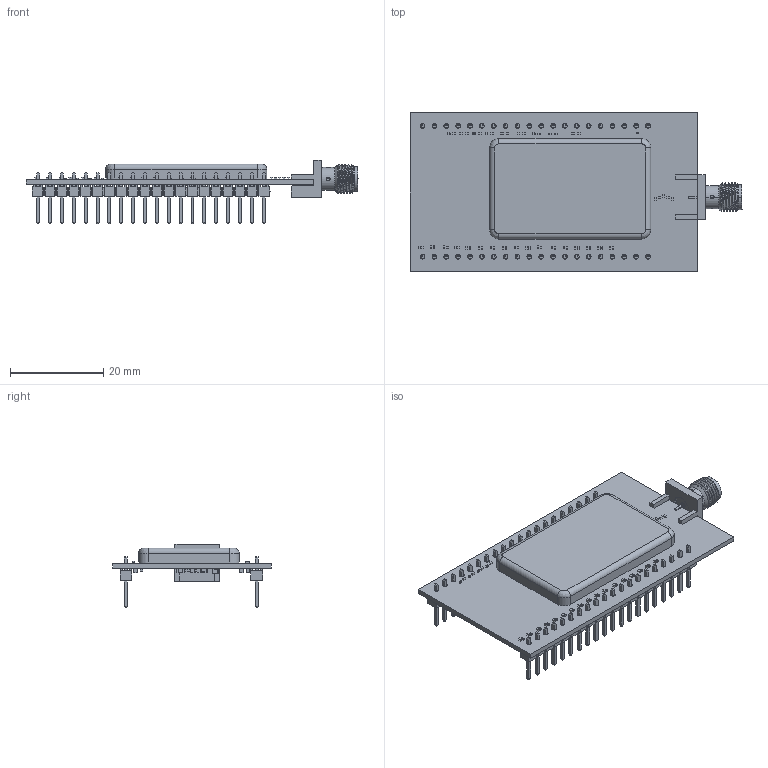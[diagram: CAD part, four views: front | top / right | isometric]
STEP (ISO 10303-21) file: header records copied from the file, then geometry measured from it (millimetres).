
FILE_DESCRIPTION(('Open CASCADE Model'),'2;1');
FILE_NAME('Open CASCADE Shape Model','2022-09-01T08:32:07',('Author'),( 'Open CASCADE'),'Open CASCADE STEP processor 6.8','Open CASCADE 6.8' ,'Unknown');
FILE_SCHEMA(('AUTOMOTIVE_DESIGN { 1 0 10303 214 1 1 1 1 }'));
Length unit declared in the file: millimetre
Products named in the file (172): PCB; Board; Open CASCADE STEP translator 6.8 5.1.1; C229; 6279824160; Extruded; R228; User_Library-Chip_Cap_MLCC_0201_(0603); R227; R226; R225; R224; R223; R222; R221; R220; R219; R218; R217; R216; R215; R214; R213; R212; R208; R207; R206; R205; R204; R203; R202; R201; C228; 6279823680; C227; C226; C225; C224; C223; C222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
Assembly tree (287 placements, depth 4):
  PCB
    Board
      Open CASCADE STEP translator 6.8 5.1.1
    C229
      6279824160
        Extruded
    R228
      User_Library-Chip_Cap_MLCC_0201_(0603)
    R227
      User_Library-Chip_Cap_MLCC_0201_(0603)
    R226
      User_Library-Chip_Cap_MLCC_0201_(0603)
    R225
      User_Library-Chip_Cap_MLCC_0201_(0603)
    R224
      User_Library-Chip_Cap_MLCC_0201_(0603)
    R223
      User_Library-Chip_Cap_MLCC_0201_(0603)
    R222
      User_Library-Chip_Cap_MLCC_0201_(0603)
    R221
      User_Library-Chip_Cap_MLCC_0201_(0603)
    R220
      User_Library-Chip_Cap_MLCC_0201_(0603)
    R219
      User_Library-Chip_Cap_MLCC_0201_(0603)
    R218
      User_Library-Chip_Cap_MLCC_0201_(0603)
    R217
      User_Library-Chip_Cap_MLCC_0201_(0603)
    R216
      User_Library-Chip_Cap_MLCC_0201_(0603)
    R215
      User_Library-Chip_Cap_MLCC_0201_(0603)
    R214
      User_Library-Chip_Cap_MLCC_0201_(0603)
    R213
      User_Library-Chip_Cap_MLCC_0201_(0603)
    R212
      User_Library-Chip_Cap_MLCC_0201_(0603)
    R208
      User_Library-Chip_Cap_MLCC_0201_(0603)
    R207
      User_Library-Chip_Cap_MLCC_0201_(0603)
    R206
      User_Library-Chip_Cap_MLCC_0201_(0603)
    R205
      User_Library-Chip_Cap_MLCC_0201_(0603)
    R204
      User_Library-Chip_Cap_MLCC_0201_(0603)
    R203
      User_Library-Chip_Cap_MLCC_0201_(0603)
    R202
      User_Library-Chip_Cap_MLCC_0201_(0603)
    R201
      User_Library-Chip_Cap_MLCC_0201_(0603)
    C228
      6279823680
        Extruded
    C227
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Bounding box: 71.06 x 34 x 13.52 mm (x, y, z)
Volume: 3506.9 mm3; surface area: 10069.5 mm2
Topology: 151 solids, 153 shells, 6814 faces, 16779 edges, 9871 vertices
Faces by surface type: plane 4065, cylinder 1708, bspline 865, sphere 132, torus 22, cone 18, revolution 4
Full cylindrical faces by diameter (mm): 0.5 x1, 1 x40
Entity records: 101597 total; most frequent: CARTESIAN_POINT 22223, ORIENTED_EDGE 12910, DIRECTION 12043, EDGE_CURVE 6456, LINE 5001, VECTOR 5001, VERTEX_POINT 4028, AXIS2_PLACEMENT_3D 3519
